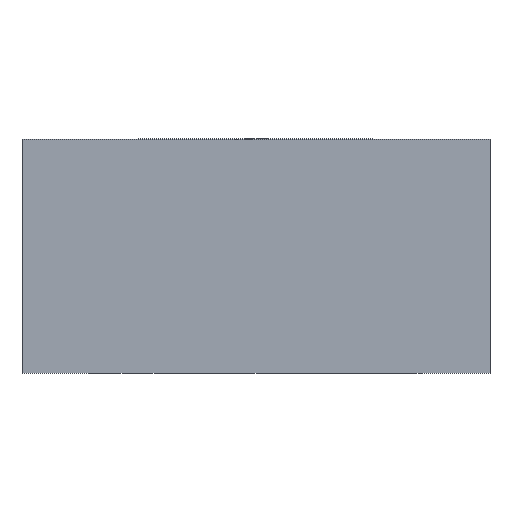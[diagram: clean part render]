
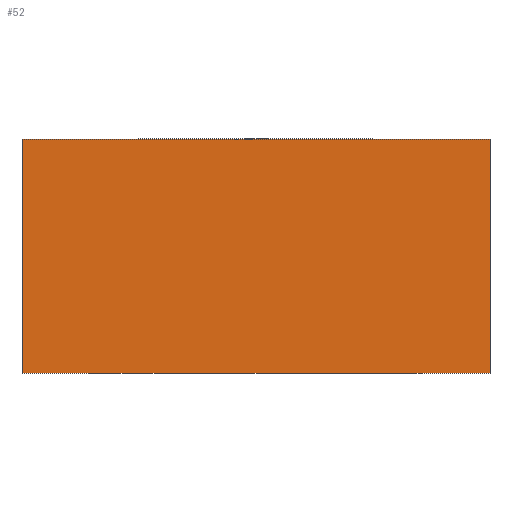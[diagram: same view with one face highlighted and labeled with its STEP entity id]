
A CAD part, front view. The second image highlights one B-rep face of the part: STEP entity #52.
In plain terms, the highlighted planar face has unit normal (0, -1, 0).
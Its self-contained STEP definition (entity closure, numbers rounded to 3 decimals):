
#52=ADVANCED_FACE('',(#80),#284,.T.);
#80=FACE_OUTER_BOUND('',#126,.F.);
#126=EDGE_LOOP('',(#187,#188,#189,#190));
#187=ORIENTED_EDGE('',*,*,#378,.F.);
#188=ORIENTED_EDGE('',*,*,#386,.F.);
#189=ORIENTED_EDGE('',*,*,#382,.T.);
#190=ORIENTED_EDGE('',*,*,#385,.T.);
#284=PLANE('',#534);
#298=LINE('',#774,#330);
#302=LINE('',#778,#334);
#305=LINE('',#781,#337);
#306=LINE('',#782,#338);
#330=VECTOR('',#595,8.);
#334=VECTOR('',#599,8.);
#337=VECTOR('',#602,4.);
#338=VECTOR('',#603,4.);
#378=EDGE_CURVE('',#477,#475,#298,.T.);
#382=EDGE_CURVE('',#473,#471,#302,.T.);
#385=EDGE_CURVE('',#471,#475,#305,.T.);
#386=EDGE_CURVE('',#473,#477,#306,.T.);
#471=VERTEX_POINT('',#731);
#473=VERTEX_POINT('',#733);
#475=VERTEX_POINT('',#735);
#477=VERTEX_POINT('',#737);
#534=AXIS2_PLACEMENT_3D('',#824,#666,#667);
#595=DIRECTION('',(-1.,0.,0.));
#599=DIRECTION('',(-1.,0.,0.));
#602=DIRECTION('',(0.,0.,1.));
#603=DIRECTION('',(0.,0.,1.));
#666=DIRECTION('',(0.,-1.,0.));
#667=DIRECTION('',(-1.,0.,0.));
#731=CARTESIAN_POINT('',(176.,43.3,160.8));
#733=CARTESIAN_POINT('',(184.,43.3,160.8));
#735=CARTESIAN_POINT('',(176.,43.3,164.8));
#737=CARTESIAN_POINT('',(184.,43.3,164.8));
#774=CARTESIAN_POINT('',(184.,43.3,164.8));
#778=CARTESIAN_POINT('',(184.,43.3,160.8));
#781=CARTESIAN_POINT('',(176.,43.3,160.8));
#782=CARTESIAN_POINT('',(184.,43.3,160.8));
#824=CARTESIAN_POINT('',(184.08,43.3,164.88));
